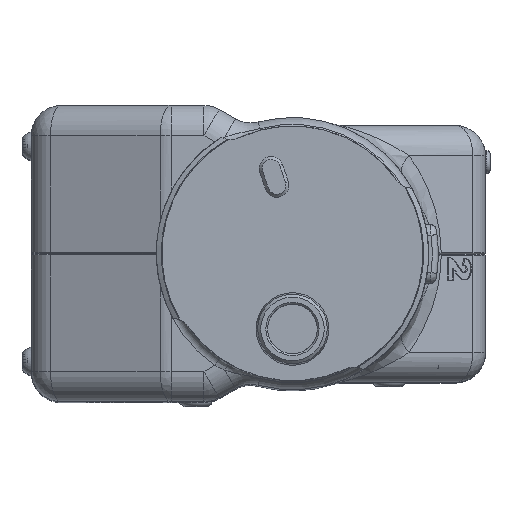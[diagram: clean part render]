
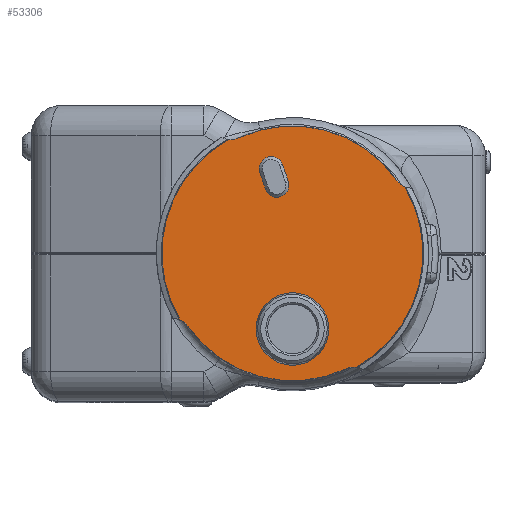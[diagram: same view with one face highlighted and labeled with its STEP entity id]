
A CAD part, top view. The second image highlights one B-rep face of the part: STEP entity #53306.
In plain terms, the highlighted planar face has unit normal (0, 0, 1) by its records, which use the part's own axes.
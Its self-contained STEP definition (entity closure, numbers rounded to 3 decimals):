
#14459=PLANE('',#56843);
#14785=FACE_BOUND('',#20354,.T.);
#14786=FACE_BOUND('',#20355,.T.);
#14787=FACE_BOUND('',#20356,.T.);
#20354=EDGE_LOOP('',(#47082,#47083,#47084,#47085));
#20355=EDGE_LOOP('',(#47086));
#20356=EDGE_LOOP('',(#47087,#47088,#47089,#47090,#47091,#47092,#47093,#47094));
#21340=CIRCLE('',#56842,6.);
#21341=CIRCLE('',#56844,1.985);
#21342=CIRCLE('',#56845,75.008);
#21343=CIRCLE('',#56846,1.985);
#21344=CIRCLE('',#56847,75.008);
#21345=CIRCLE('',#56848,3.);
#21346=CIRCLE('',#56849,21.58);
#21347=CIRCLE('',#56850,3.);
#21348=CIRCLE('',#56851,21.05);
#21349=CIRCLE('',#56852,3.);
#21350=CIRCLE('',#56853,21.58);
#21351=CIRCLE('',#56854,3.);
#21352=CIRCLE('',#56855,21.05);
#25986=VERTEX_POINT('',#89317);
#25987=VERTEX_POINT('',#89320);
#25988=VERTEX_POINT('',#89321);
#25989=VERTEX_POINT('',#89323);
#25990=VERTEX_POINT('',#89325);
#25991=VERTEX_POINT('',#89328);
#25992=VERTEX_POINT('',#89329);
#25993=VERTEX_POINT('',#89331);
#25994=VERTEX_POINT('',#89333);
#25995=VERTEX_POINT('',#89335);
#25996=VERTEX_POINT('',#89337);
#25997=VERTEX_POINT('',#89339);
#25998=VERTEX_POINT('',#89341);
#33079=EDGE_CURVE('',#25986,#25986,#21340,.T.);
#33080=EDGE_CURVE('',#25987,#25988,#21341,.T.);
#33081=EDGE_CURVE('',#25988,#25989,#21342,.T.);
#33082=EDGE_CURVE('',#25989,#25990,#21343,.T.);
#33083=EDGE_CURVE('',#25990,#25987,#21344,.T.);
#33084=EDGE_CURVE('',#25991,#25992,#21345,.T.);
#33085=EDGE_CURVE('',#25992,#25993,#21346,.T.);
#33086=EDGE_CURVE('',#25993,#25994,#21347,.T.);
#33087=EDGE_CURVE('',#25994,#25995,#21348,.T.);
#33088=EDGE_CURVE('',#25995,#25996,#21349,.T.);
#33089=EDGE_CURVE('',#25996,#25997,#21350,.T.);
#33090=EDGE_CURVE('',#25997,#25998,#21351,.T.);
#33091=EDGE_CURVE('',#25998,#25991,#21352,.T.);
#47082=ORIENTED_EDGE('',*,*,#33080,.T.);
#47083=ORIENTED_EDGE('',*,*,#33081,.T.);
#47084=ORIENTED_EDGE('',*,*,#33082,.T.);
#47085=ORIENTED_EDGE('',*,*,#33083,.T.);
#47086=ORIENTED_EDGE('',*,*,#33079,.T.);
#47087=ORIENTED_EDGE('',*,*,#33084,.T.);
#47088=ORIENTED_EDGE('',*,*,#33085,.T.);
#47089=ORIENTED_EDGE('',*,*,#33086,.T.);
#47090=ORIENTED_EDGE('',*,*,#33087,.T.);
#47091=ORIENTED_EDGE('',*,*,#33088,.T.);
#47092=ORIENTED_EDGE('',*,*,#33089,.T.);
#47093=ORIENTED_EDGE('',*,*,#33090,.T.);
#47094=ORIENTED_EDGE('',*,*,#33091,.T.);
#53306=ADVANCED_FACE('',(#14785,#14786,#14787),#14459,.T.);
#56842=AXIS2_PLACEMENT_3D('',#89318,#69389,#69390);
#56843=AXIS2_PLACEMENT_3D('',#89319,#69391,#69392);
#56844=AXIS2_PLACEMENT_3D('',#89322,#69393,#69394);
#56845=AXIS2_PLACEMENT_3D('',#89324,#69395,#69396);
#56846=AXIS2_PLACEMENT_3D('',#89326,#69397,#69398);
#56847=AXIS2_PLACEMENT_3D('',#89327,#69399,#69400);
#56848=AXIS2_PLACEMENT_3D('',#89330,#69401,#69402);
#56849=AXIS2_PLACEMENT_3D('',#89332,#69403,#69404);
#56850=AXIS2_PLACEMENT_3D('',#89334,#69405,#69406);
#56851=AXIS2_PLACEMENT_3D('',#89336,#69407,#69408);
#56852=AXIS2_PLACEMENT_3D('',#89338,#69409,#69410);
#56853=AXIS2_PLACEMENT_3D('',#89340,#69411,#69412);
#56854=AXIS2_PLACEMENT_3D('',#89342,#69413,#69414);
#56855=AXIS2_PLACEMENT_3D('',#89343,#69415,#69416);
#69389=DIRECTION('center_axis',(0.,0.,
-1.));
#69390=DIRECTION('ref_axis',(0.,1.,0.));
#69391=DIRECTION('center_axis',(0.,0.,
1.));
#69392=DIRECTION('ref_axis',(0.,1.,0.));
#69393=DIRECTION('center_axis',(0.,0.,
-1.));
#69394=DIRECTION('ref_axis',(-0.942,-0.337,0.));
#69395=DIRECTION('center_axis',(0.,0.,
-1.));
#69396=DIRECTION('ref_axis',(-0.954,-0.299,0.));
#69397=DIRECTION('center_axis',(0.,0.,
-1.));
#69398=DIRECTION('ref_axis',(0.942,0.337,0.));
#69399=DIRECTION('center_axis',(0.,0.,
-1.));
#69400=DIRECTION('ref_axis',(0.954,0.299,0.));
#69401=DIRECTION('center_axis',(0.,0.,
-1.));
#69402=DIRECTION('ref_axis',(0.423,-0.906,0.));
#69403=DIRECTION('center_axis',(0.,0.,
1.));
#69404=DIRECTION('ref_axis',(0.,1.,0.));
#69405=DIRECTION('center_axis',(0.,0.,
-1.));
#69406=DIRECTION('ref_axis',(-0.819,-0.574,0.));
#69407=DIRECTION('center_axis',(0.,0.,
1.));
#69408=DIRECTION('ref_axis',(-0.031,-1.,0.));
#69409=DIRECTION('center_axis',(0.,0.,
-1.));
#69410=DIRECTION('ref_axis',(-0.423,0.906,0.));
#69411=DIRECTION('center_axis',(0.,0.,
1.));
#69412=DIRECTION('ref_axis',(0.,1.,0.));
#69413=DIRECTION('center_axis',(0.,0.,
-1.));
#69414=DIRECTION('ref_axis',(0.819,0.574,0.));
#69415=DIRECTION('center_axis',(0.,0.,
1.));
#69416=DIRECTION('ref_axis',(-0.031,-1.,0.));
#89317=CARTESIAN_POINT('',(0.,-6.5,0.));
#89318=CARTESIAN_POINT('Origin',(0.,-12.5,
0.));
#89319=CARTESIAN_POINT('Origin',(0.,11.15,0.));
#89320=CARTESIAN_POINT('',(-0.68,11.848,0.));
#89321=CARTESIAN_POINT('',(-4.445,10.587,0.));
#89322=CARTESIAN_POINT('Origin',(-2.575,11.255,0.));
#89323=CARTESIAN_POINT('',(-5.397,13.432,0.));
#89324=CARTESIAN_POINT('Origin',(66.188,35.828,0.));
#89325=CARTESIAN_POINT('',(-1.633,14.693,0.));
#89326=CARTESIAN_POINT('Origin',(-3.503,14.025,0.));
#89327=CARTESIAN_POINT('Origin',(-72.266,-10.548,0.));
#89328=CARTESIAN_POINT('',(8.896,-19.078,0.));
#89329=CARTESIAN_POINT('',(10.555,-18.822,0.));
#89330=CARTESIAN_POINT('Origin',(10.164,-21.797,0.));
#89331=CARTESIAN_POINT('',(18.552,11.023,0.));
#89332=CARTESIAN_POINT('Origin',(0.,0.,
0.));
#89333=CARTESIAN_POINT('',(17.243,12.074,0.));
#89334=CARTESIAN_POINT('Origin',(19.701,13.795,0.));
#89335=CARTESIAN_POINT('',(-8.896,19.078,0.));
#89336=CARTESIAN_POINT('Origin',(0.,0.,
0.));
#89337=CARTESIAN_POINT('',(-10.555,18.822,0.));
#89338=CARTESIAN_POINT('Origin',(-10.164,21.797,0.));
#89339=CARTESIAN_POINT('',(-18.552,-11.023,0.));
#89340=CARTESIAN_POINT('Origin',(0.,0.,
0.));
#89341=CARTESIAN_POINT('',(-17.243,-12.074,0.));
#89342=CARTESIAN_POINT('Origin',(-19.701,-13.795,0.));
#89343=CARTESIAN_POINT('Origin',(0.,0.,
0.));
